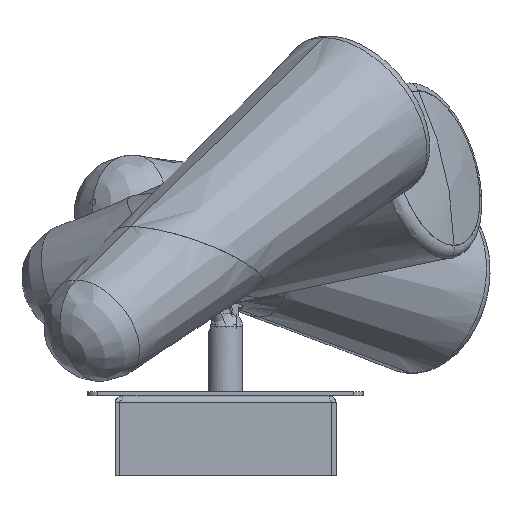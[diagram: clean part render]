
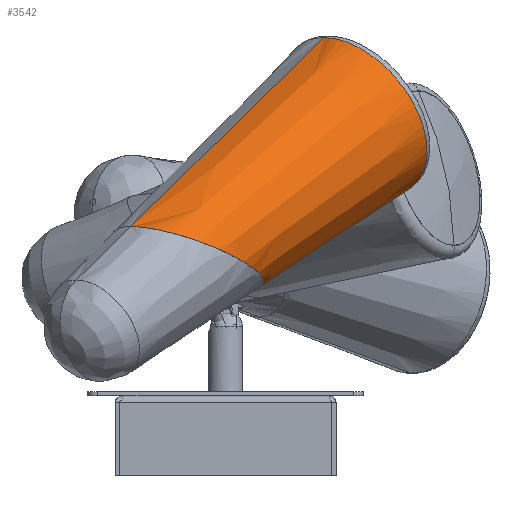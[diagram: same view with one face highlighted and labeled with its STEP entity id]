
A CAD part, left-side view. The second image highlights one B-rep face of the part: STEP entity #3542.
In plain terms, the highlighted conical face has half-angle 4.697 degrees and reference radius 25.225 mm.
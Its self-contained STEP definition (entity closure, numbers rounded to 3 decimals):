
#36=CONICAL_SURFACE('',#3853,25.225,0.082);
#61=ELLIPSE('',#3840,25.365,19.637);
#85=B_SPLINE_CURVE_WITH_KNOTS('',3,(#5692,#5693,#5694,#5695,#5696,#5697,
#5698,#5699),.UNSPECIFIED.,.F.,.F.,(4,1,1,1,1,4),(0.,0.2,0.4,0.6,0.8,1.),
 .UNSPECIFIED.);
#475=FACE_OUTER_BOUND('',#726,.T.);
#726=EDGE_LOOP('',(#2520,#2521,#2522,#2523));
#983=LINE('',#5727,#1265);
#984=LINE('',#5728,#1266);
#1265=VECTOR('',#4423,304.8);
#1266=VECTOR('',#4424,304.8);
#1548=VERTEX_POINT('',#5685);
#1549=VERTEX_POINT('',#5686);
#1550=VERTEX_POINT('',#5690);
#1551=VERTEX_POINT('',#5691);
#1891=EDGE_CURVE('',#1549,#1548,#61,.T.);
#1892=EDGE_CURVE('',#1550,#1551,#85,.T.);
#1903=EDGE_CURVE('',#1549,#1551,#983,.T.);
#1904=EDGE_CURVE('',#1550,#1548,#984,.T.);
#2520=ORIENTED_EDGE('',*,*,#1892,.T.);
#2521=ORIENTED_EDGE('',*,*,#1903,.F.);
#2522=ORIENTED_EDGE('',*,*,#1891,.T.);
#2523=ORIENTED_EDGE('',*,*,#1904,.F.);
#3542=ADVANCED_FACE('',(#475),#36,.T.);
#3840=AXIS2_PLACEMENT_3D('',#5688,#4392,#4393);
#3853=AXIS2_PLACEMENT_3D('',#5726,#4421,#4422);
#4392=DIRECTION('center_axis',(0.252,0.252,0.934));
#4393=DIRECTION('ref_axis',(-0.661,-0.661,0.357));
#4421=DIRECTION('center_axis',(0.612,0.612,0.5));
#4422=DIRECTION('ref_axis',(0.707,-0.707,0.));
#4423=DIRECTION('',(0.581,0.581,0.569));
#4424=DIRECTION('',(-0.639,-0.639,-0.427));
#5685=CARTESIAN_POINT('',(6.013,-138.987,54.183));
#5686=CARTESIAN_POINT('',(-27.501,-172.501,72.272));
#5688=CARTESIAN_POINT('Origin',(-10.744,-155.744,63.227));
#5690=CARTESIAN_POINT('',(46.916,-98.084,81.53));
#5691=CARTESIAN_POINT('',(28.365,-116.635,126.971));
#5692=CARTESIAN_POINT('Ctrl Pts',(46.916,-98.084,81.53));
#5693=CARTESIAN_POINT('Ctrl Pts',(50.97,-102.001,81.362));
#5694=CARTESIAN_POINT('Ctrl Pts',(57.221,-110.976,84.699));
#5695=CARTESIAN_POINT('Ctrl Pts',(59.565,-123.14,96.726));
#5696=CARTESIAN_POINT('Ctrl Pts',(53.421,-129.284,111.776));
#5697=CARTESIAN_POINT('Ctrl Pts',(41.257,-126.94,123.802));
#5698=CARTESIAN_POINT('Ctrl Pts',(32.282,-120.69,127.139));
#5699=CARTESIAN_POINT('Ctrl Pts',(28.365,-116.635,126.971));
#5726=CARTESIAN_POINT('Origin',(30.108,-114.892,98.101));
#5727=CARTESIAN_POINT('',(-27.501,-172.501,72.272));
#5728=CARTESIAN_POINT('',(46.916,-98.084,81.53));
